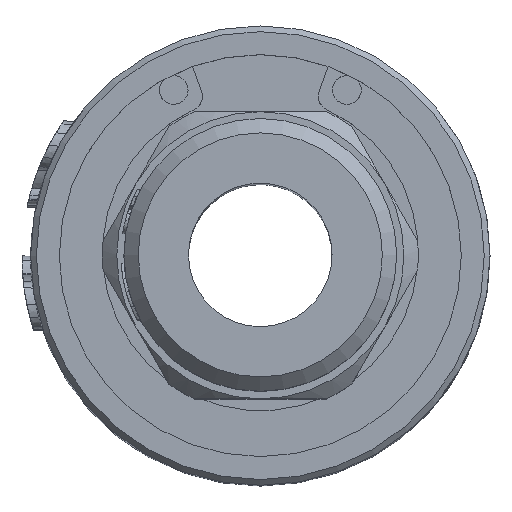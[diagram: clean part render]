
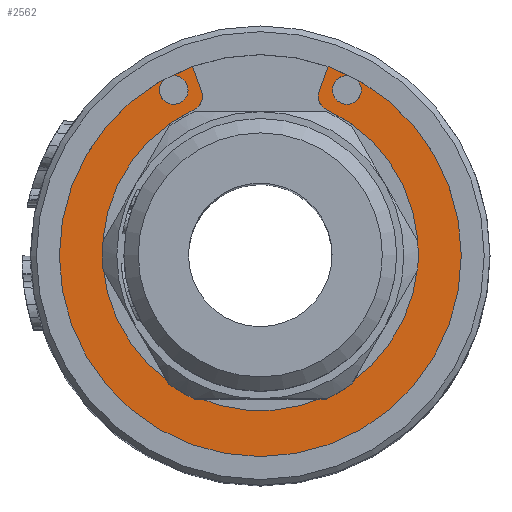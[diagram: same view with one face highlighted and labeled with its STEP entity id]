
A CAD part, top view. The second image highlights one B-rep face of the part: STEP entity #2562.
In plain terms, the highlighted planar face has unit normal (0, 0, 1).
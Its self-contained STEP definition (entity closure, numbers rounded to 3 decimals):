
#201=FACE_BOUND('',#4698,.T.);
#202=FACE_BOUND('',#4699,.T.);
#203=FACE_BOUND('',#4700,.T.);
#352=CIRCLE('',#17115,0.5);
#354=CIRCLE('',#17118,0.5);
#355=CIRCLE('',#17120,5.5);
#356=CIRCLE('',#17121,0.5);
#357=CIRCLE('',#17122,0.5);
#358=CIRCLE('',#17123,7.35);
#359=CIRCLE('',#17124,0.5);
#360=CIRCLE('',#17125,0.5);
#361=CIRCLE('',#17127,7.35);
#362=CIRCLE('',#17129,0.5);
#363=CIRCLE('',#17130,0.5);
#364=CIRCLE('',#17131,7.35);
#365=CIRCLE('',#17132,0.5);
#366=CIRCLE('',#17133,0.5);
#1108=LINE('',#31850,#1731);
#1109=LINE('',#31858,#1732);
#1110=LINE('',#31870,#1733);
#1111=LINE('',#31878,#1734);
#1731=VECTOR('',#18770,1.);
#1732=VECTOR('',#18777,1.);
#1733=VECTOR('',#18788,1.);
#1734=VECTOR('',#18795,1.);
#2562=ADVANCED_FACE('',(#201,#202,#203),#3106,.F.);
#3106=PLANE('',#17134);
#4698=EDGE_LOOP('',(#8131));
#4699=EDGE_LOOP('',(#8132,#8133,#8134,#8135,#8136,#8137,#8138,#8139,#8140,
#8141,#8142,#8143,#8144,#8145,#8146,#8147,#8148,#8149));
#4700=EDGE_LOOP('',(#8150));
#5123=ELLIPSE('',#17126,7.35,6.5);
#5124=ELLIPSE('',#17128,7.35,6.5);
#8131=ORIENTED_EDGE('',*,*,#13601,.T.);
#8132=ORIENTED_EDGE('',*,*,#13602,.F.);
#8133=ORIENTED_EDGE('',*,*,#13603,.T.);
#8134=ORIENTED_EDGE('',*,*,#13604,.T.);
#8135=ORIENTED_EDGE('',*,*,#13605,.T.);
#8136=ORIENTED_EDGE('',*,*,#13606,.F.);
#8137=ORIENTED_EDGE('',*,*,#13607,.T.);
#8138=ORIENTED_EDGE('',*,*,#13608,.T.);
#8139=ORIENTED_EDGE('',*,*,#13609,.T.);
#8140=ORIENTED_EDGE('',*,*,#13610,.F.);
#8141=ORIENTED_EDGE('',*,*,#13611,.F.);
#8142=ORIENTED_EDGE('',*,*,#13612,.T.);
#8143=ORIENTED_EDGE('',*,*,#13613,.F.);
#8144=ORIENTED_EDGE('',*,*,#13614,.F.);
#8145=ORIENTED_EDGE('',*,*,#13615,.F.);
#8146=ORIENTED_EDGE('',*,*,#13616,.T.);
#8147=ORIENTED_EDGE('',*,*,#13617,.F.);
#8148=ORIENTED_EDGE('',*,*,#13618,.F.);
#8149=ORIENTED_EDGE('',*,*,#13619,.F.);
#8150=ORIENTED_EDGE('',*,*,#13599,.F.);
#11334=VERTEX_POINT('',#31838);
#11336=VERTEX_POINT('',#31843);
#11337=VERTEX_POINT('',#31846);
#11338=VERTEX_POINT('',#31847);
#11339=VERTEX_POINT('',#31849);
#11340=VERTEX_POINT('',#31851);
#11341=VERTEX_POINT('',#31853);
#11342=VERTEX_POINT('',#31855);
#11343=VERTEX_POINT('',#31857);
#11344=VERTEX_POINT('',#31859);
#11345=VERTEX_POINT('',#31861);
#11346=VERTEX_POINT('',#31863);
#11347=VERTEX_POINT('',#31865);
#11348=VERTEX_POINT('',#31867);
#11349=VERTEX_POINT('',#31869);
#11350=VERTEX_POINT('',#31871);
#11351=VERTEX_POINT('',#31873);
#11352=VERTEX_POINT('',#31875);
#11353=VERTEX_POINT('',#31877);
#11354=VERTEX_POINT('',#31879);
#13599=EDGE_CURVE('',#11334,#11334,#352,.T.);
#13601=EDGE_CURVE('',#11336,#11336,#354,.T.);
#13602=EDGE_CURVE('',#11337,#11338,#355,.T.);
#13603=EDGE_CURVE('',#11337,#11339,#356,.T.);
#13604=EDGE_CURVE('',#11339,#11340,#1108,.T.);
#13605=EDGE_CURVE('',#11340,#11341,#357,.T.);
#13606=EDGE_CURVE('',#11342,#11341,#358,.T.);
#13607=EDGE_CURVE('',#11342,#11343,#359,.T.);
#13608=EDGE_CURVE('',#11343,#11344,#1109,.T.);
#13609=EDGE_CURVE('',#11344,#11345,#360,.T.);
#13610=EDGE_CURVE('',#11346,#11345,#5123,.T.);
#13611=EDGE_CURVE('',#11347,#11346,#361,.T.);
#13612=EDGE_CURVE('',#11347,#11348,#5124,.T.);
#13613=EDGE_CURVE('',#11349,#11348,#362,.T.);
#13614=EDGE_CURVE('',#11350,#11349,#1110,.T.);
#13615=EDGE_CURVE('',#11351,#11350,#363,.T.);
#13616=EDGE_CURVE('',#11351,#11352,#364,.T.);
#13617=EDGE_CURVE('',#11353,#11352,#365,.T.);
#13618=EDGE_CURVE('',#11354,#11353,#1111,.T.);
#13619=EDGE_CURVE('',#11338,#11354,#366,.T.);
#17115=AXIS2_PLACEMENT_3D('',#31837,#18756,#18757);
#17118=AXIS2_PLACEMENT_3D('',#31842,#18762,#18763);
#17120=AXIS2_PLACEMENT_3D('',#31845,#18766,#18767);
#17121=AXIS2_PLACEMENT_3D('',#31848,#18768,#18769);
#17122=AXIS2_PLACEMENT_3D('',#31852,#18771,#18772);
#17123=AXIS2_PLACEMENT_3D('',#31854,#18773,#18774);
#17124=AXIS2_PLACEMENT_3D('',#31856,#18775,#18776);
#17125=AXIS2_PLACEMENT_3D('',#31860,#18778,#18779);
#17126=AXIS2_PLACEMENT_3D('',#31862,#18780,#18781);
#17127=AXIS2_PLACEMENT_3D('',#31864,#18782,#18783);
#17128=AXIS2_PLACEMENT_3D('',#31866,#18784,#18785);
#17129=AXIS2_PLACEMENT_3D('',#31868,#18786,#18787);
#17130=AXIS2_PLACEMENT_3D('',#31872,#18789,#18790);
#17131=AXIS2_PLACEMENT_3D('',#31874,#18791,#18792);
#17132=AXIS2_PLACEMENT_3D('',#31876,#18793,#18794);
#17133=AXIS2_PLACEMENT_3D('',#31880,#18796,#18797);
#17134=AXIS2_PLACEMENT_3D('',#31881,#18798,#18799);
#18756=DIRECTION('',(0.,0.,1.));
#18757=DIRECTION('',(1.,0.,0.));
#18762=DIRECTION('',(0.,0.,-1.));
#18763=DIRECTION('',(-1.,0.,0.));
#18766=DIRECTION('',(0.,0.,1.));
#18767=DIRECTION('',(-1.,0.,0.));
#18768=DIRECTION('',(0.,0.,1.));
#18769=DIRECTION('',(-1.,0.,0.));
#18770=DIRECTION('',(-0.342,0.94,0.));
#18771=DIRECTION('',(0.,0.,1.));
#18772=DIRECTION('',(-1.,0.,0.));
#18773=DIRECTION('',(0.,0.,-1.));
#18774=DIRECTION('',(1.,0.,0.));
#18775=DIRECTION('',(0.,0.,1.));
#18776=DIRECTION('',(-1.,0.,0.));
#18777=DIRECTION('',(0.,-1.,0.));
#18778=DIRECTION('',(0.,0.,-1.));
#18779=DIRECTION('',(-1.,0.,0.));
#18780=DIRECTION('',(0.,0.,-1.));
#18781=DIRECTION('',(1.,0.,0.));
#18782=DIRECTION('',(0.,0.,-1.));
#18783=DIRECTION('',(-1.,0.,0.));
#18784=DIRECTION('',(0.,0.,1.));
#18785=DIRECTION('',(-1.,0.,0.));
#18786=DIRECTION('',(0.,0.,1.));
#18787=DIRECTION('',(1.,0.,0.));
#18788=DIRECTION('',(0.,-1.,0.));
#18789=DIRECTION('',(0.,0.,-1.));
#18790=DIRECTION('',(1.,0.,0.));
#18791=DIRECTION('',(0.,0.,1.));
#18792=DIRECTION('',(-1.,0.,0.));
#18793=DIRECTION('',(0.,0.,-1.));
#18794=DIRECTION('',(1.,0.,0.));
#18795=DIRECTION('',(0.342,0.94,0.));
#18796=DIRECTION('',(0.,0.,-1.));
#18797=DIRECTION('',(1.,0.,0.));
#18798=DIRECTION('',(0.,0.,-1.));
#18799=DIRECTION('',(-1.,0.,0.));
#31837=CARTESIAN_POINT('',(3.016,5.773,22.4));
#31838=CARTESIAN_POINT('',(3.516,5.773,22.4));
#31842=CARTESIAN_POINT('',(-3.016,5.773,22.4));
#31843=CARTESIAN_POINT('',(-3.516,5.773,22.4));
#31845=CARTESIAN_POINT('',(0.,0.1,22.4));
#31846=CARTESIAN_POINT('',(-2.305,5.094,22.4));
#31847=CARTESIAN_POINT('',(2.305,5.094,22.4));
#31848=CARTESIAN_POINT('',(-2.515,5.548,22.4));
#31849=CARTESIAN_POINT('',(-2.045,5.719,22.4));
#31850=CARTESIAN_POINT('',(0.,0.1,22.4));
#31851=CARTESIAN_POINT('',(-2.337,6.52,22.4));
#31852=CARTESIAN_POINT('',(-2.806,6.349,22.4));
#31853=CARTESIAN_POINT('',(-3.011,6.805,22.4));
#31854=CARTESIAN_POINT('',(0.,0.1,22.4));
#31855=CARTESIAN_POINT('',(-5.04,5.45,22.4));
#31856=CARTESIAN_POINT('',(-4.697,5.086,22.4));
#31857=CARTESIAN_POINT('',(-5.197,5.086,22.4));
#31858=CARTESIAN_POINT('',(-5.197,0.1,22.4));
#31859=CARTESIAN_POINT('',(-5.197,4.917,22.4));
#31860=CARTESIAN_POINT('',(-5.697,4.917,22.4));
#31861=CARTESIAN_POINT('',(-5.355,4.553,22.4));
#31862=CARTESIAN_POINT('',(0.,0.1,22.4));
#31863=CARTESIAN_POINT('',(-7.35,0.1,22.4));
#31864=CARTESIAN_POINT('',(0.,0.1,22.4));
#31865=CARTESIAN_POINT('',(7.35,0.1,22.4));
#31866=CARTESIAN_POINT('',(0.,0.1,22.4));
#31867=CARTESIAN_POINT('',(5.355,4.553,22.4));
#31868=CARTESIAN_POINT('',(5.697,4.917,22.4));
#31869=CARTESIAN_POINT('',(5.197,4.917,22.4));
#31870=CARTESIAN_POINT('',(5.197,0.1,22.4));
#31871=CARTESIAN_POINT('',(5.197,5.086,22.4));
#31872=CARTESIAN_POINT('',(4.697,5.086,22.4));
#31873=CARTESIAN_POINT('',(5.04,5.45,22.4));
#31874=CARTESIAN_POINT('',(0.,0.1,22.4));
#31875=CARTESIAN_POINT('',(3.011,6.805,22.4));
#31876=CARTESIAN_POINT('',(2.806,6.349,22.4));
#31877=CARTESIAN_POINT('',(2.337,6.52,22.4));
#31878=CARTESIAN_POINT('',(0.,0.1,22.4));
#31879=CARTESIAN_POINT('',(2.045,5.719,22.4));
#31880=CARTESIAN_POINT('',(2.515,5.548,22.4));
#31881=CARTESIAN_POINT('',(0.,0.1,22.4));
